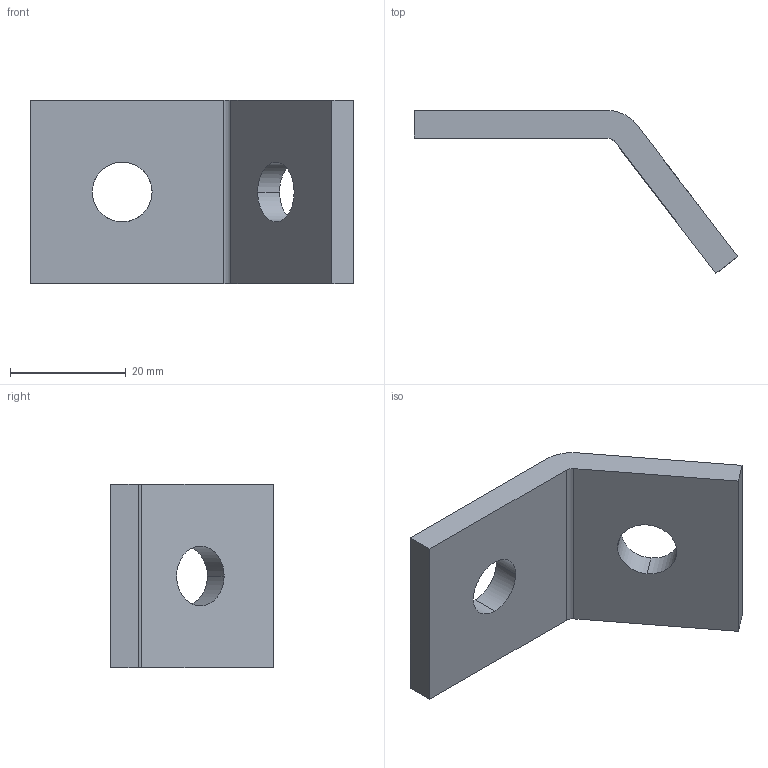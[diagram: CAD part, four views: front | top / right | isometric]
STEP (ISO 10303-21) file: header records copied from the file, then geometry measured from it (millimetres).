
FILE_DESCRIPTION(('TurboCAD Mac Pro'),'Build 980');
FILE_NAME('A2125.stp',' ',(''),(''),'ACIS Interop','IMSI','TurboCAD Mac Pro BY IMSI, INCORPORATED');
FILE_SCHEMA(('automotive_design'));
Length unit declared in the file: inch
Products named in the file (1): 1
Bounding box: 55.84 x 28.09 x 31.75 mm (x, y, z)
Volume: 9128.1 mm3; surface area: 5069.7 mm2
Topology: 1 solids, 1 shells, 18 faces, 48 edges, 32 vertices
Faces by surface type: bspline 10, plane 8
Entity records: 972 total; most frequent: CARTESIAN_POINT 290, ORIENTED_EDGE 96, EDGE_CURVE 48, DIRECTION 48, STYLED_ITEM 43, PRESENTATION_STYLE_ASSIGNMENT 43, COLOUR_RGB 43, VERTEX_POINT 32
